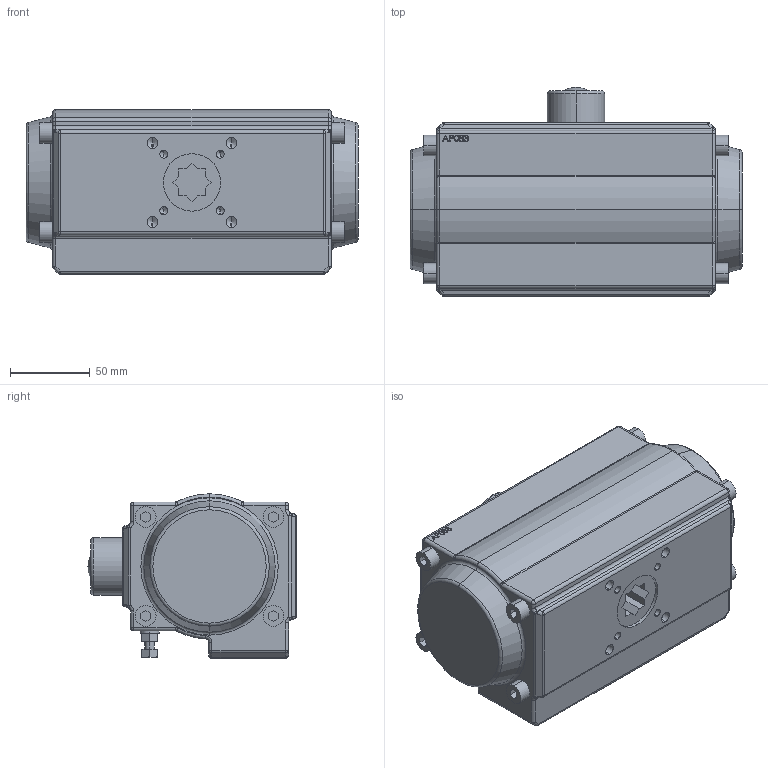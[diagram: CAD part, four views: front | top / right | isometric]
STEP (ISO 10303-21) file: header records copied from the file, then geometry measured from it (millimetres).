
FILE_DESCRIPTION (( 'STEP AP203' ), '1' );
FILE_NAME ('AP083.STEP', '2020-04-08T11:40:16', ( '' ), ( '' ), 'SwSTEP 2.0', 'SolidWorks 2017', '' );
FILE_SCHEMA (( 'CONFIG_CONTROL_DESIGN' ));
Length unit declared in the file: millimetre
Products named in the file (1): AP083
Bounding box: 208 x 131 x 103 mm (x, y, z)
Volume: 1857747.8 mm3; surface area: 106418.5 mm2
Topology: 1 solids, 1 shells, 516 faces, 1224 edges, 723 vertices
Faces by surface type: plane 197, cylinder 124, cone 68, bspline 63, torus 32, sphere 32
Entity records: 17725 total; most frequent: CARTESIAN_POINT 6341, ORIENTED_EDGE 2348, DIRECTION 2264, EDGE_CURVE 1174, AXIS2_PLACEMENT_3D 810, VERTEX_POINT 723, LINE 644, VECTOR 644
